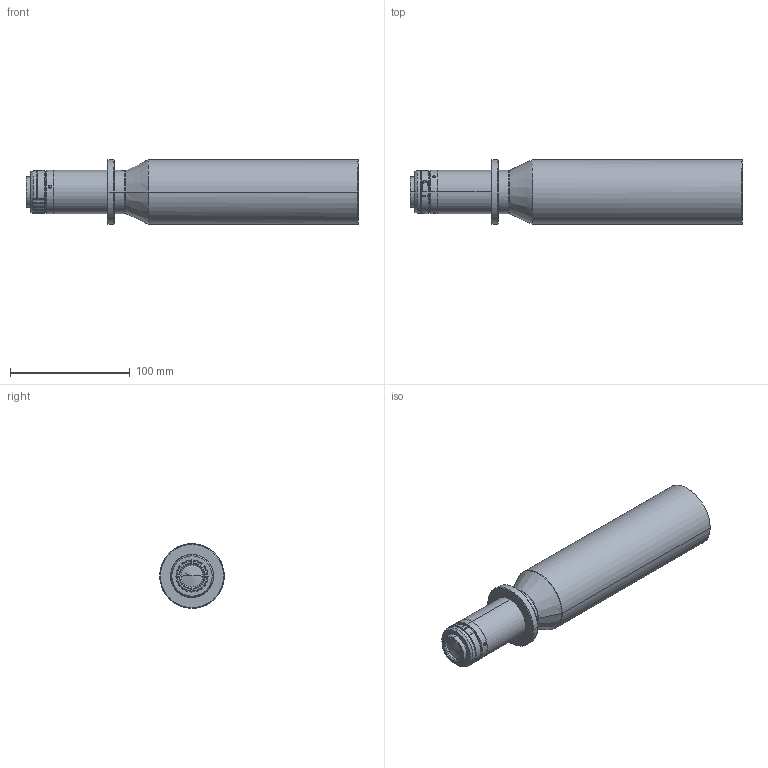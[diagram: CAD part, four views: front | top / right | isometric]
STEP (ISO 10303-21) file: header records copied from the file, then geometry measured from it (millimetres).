
FILE_DESCRIPTION (( 'STEP AP203' ), '1' );
FILE_NAME ('WWK50-260IR1050-110-AL.STEP', '2021-11-10T08:16:32', ( '' ), ( '' ), 'SwSTEP 2.0', 'SolidWorks 2017', '' );
FILE_SCHEMA (( 'CONFIG_CONTROL_DESIGN' ));
Length unit declared in the file: millimetre
Products named in the file (1): WWK50-260IR1050-110-AL
Bounding box: 277.56 x 54 x 54 mm (x, y, z)
Volume: 514493.1 mm3; surface area: 50805.1 mm2
Topology: 1 solids, 3 shells, 176 faces, 433 edges, 278 vertices
Faces by surface type: cylinder 77, cone 56, plane 37, bspline 4, sphere 2
Entity records: 5814 total; most frequent: CARTESIAN_POINT 1603, DIRECTION 877, ORIENTED_EDGE 858, EDGE_CURVE 429, AXIS2_PLACEMENT_3D 360, VERTEX_POINT 278, EDGE_LOOP 197, CIRCLE 187
